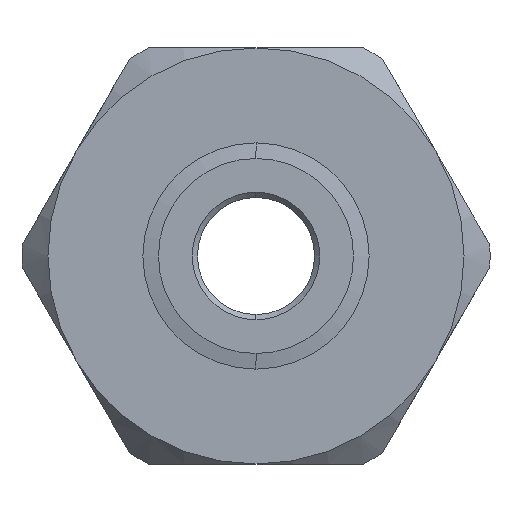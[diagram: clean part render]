
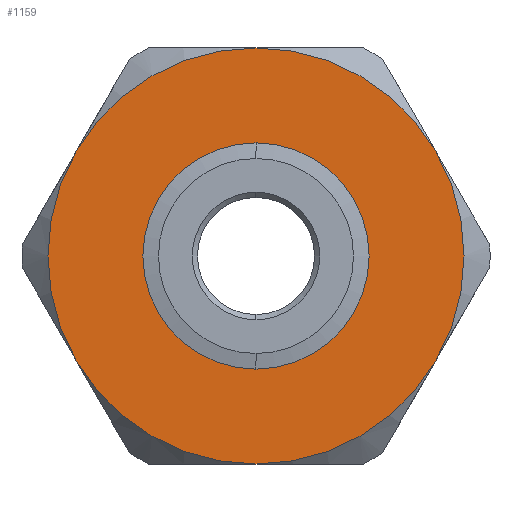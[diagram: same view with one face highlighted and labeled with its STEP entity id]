
A CAD part, front view. The second image highlights one B-rep face of the part: STEP entity #1159.
In plain terms, the highlighted planar face has unit normal (0, -1, 0).
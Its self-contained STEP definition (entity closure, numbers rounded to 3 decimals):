
#1 = VERTEX_POINT ( 'NONE', #1953 ) ;
#57 = FACE_OUTER_BOUND ( 'NONE', #3085, .T. ) ;
#110 = ORIENTED_EDGE ( 'NONE', *, *, #2034, .F. ) ;
#140 = EDGE_CURVE ( 'NONE', #3007, #2722, #890, .T. ) ;
#144 = DIRECTION ( 'NONE',  ( 0., 0., -1. ) ) ;
#173 = CIRCLE ( 'NONE', #492, 8. ) ;
#250 = CARTESIAN_POINT ( 'NONE',  ( 0., -18.3, 0. ) ) ;
#251 = CARTESIAN_POINT ( 'NONE',  ( 0., -18.3, 0. ) ) ;
#352 = CIRCLE ( 'NONE', #624, 8. ) ;
#358 = CARTESIAN_POINT ( 'NONE',  ( 0., -18.3, 0. ) ) ;
#383 = EDGE_CURVE ( 'NONE', #1627, #589, #352, .T. ) ;
#453 = ORIENTED_EDGE ( 'NONE', *, *, #1714, .T. ) ;
#460 = CARTESIAN_POINT ( 'NONE',  ( 0., -18.3, 0. ) ) ;
#475 = VERTEX_POINT ( 'NONE', #2146 ) ;
#477 = DIRECTION ( 'NONE',  ( 0., -1., 0. ) ) ;
#492 = AXIS2_PLACEMENT_3D ( 'NONE', #918, #2889, #144 ) ;
#589 = VERTEX_POINT ( 'NONE', #878 ) ;
#624 = AXIS2_PLACEMENT_3D ( 'NONE', #250, #1555, #2296 ) ;
#687 = CIRCLE ( 'NONE', #1501, 3.75 ) ;
#710 = EDGE_CURVE ( 'NONE', #2722, #1168, #2185, .T. ) ;
#756 = DIRECTION ( 'NONE',  ( 0., -1., 0. ) ) ;
#773 = CARTESIAN_POINT ( 'NONE',  ( 0., -18.3, 0. ) ) ;
#878 = CARTESIAN_POINT ( 'NONE',  ( 6.928, -18.3, 4. ) ) ;
#890 = CIRCLE ( 'NONE', #2754, 8. ) ;
#918 = CARTESIAN_POINT ( 'NONE',  ( 0., -18.3, 0. ) ) ;
#943 = EDGE_CURVE ( 'NONE', #1168, #1627, #2649, .T. ) ;
#951 = AXIS2_PLACEMENT_3D ( 'NONE', #251, #1278, #2058 ) ;
#975 = DIRECTION ( 'NONE',  ( 0., 0., -1. ) ) ;
#982 = EDGE_LOOP ( 'NONE', ( #3150, #110 ) ) ;
#983 = CARTESIAN_POINT ( 'NONE',  ( -6.928, -18.3, -4. ) ) ;
#1075 = CARTESIAN_POINT ( 'NONE',  ( -6.928, -18.3, 4. ) ) ;
#1099 = DIRECTION ( 'NONE',  ( 0., -1., 0. ) ) ;
#1111 = DIRECTION ( 'NONE',  ( 0., -1., 0. ) ) ;
#1159 = ADVANCED_FACE ( 'NONE', ( #2779, #57 ), #2051, .T. ) ;
#1168 = VERTEX_POINT ( 'NONE', #2361 ) ;
#1197 = ORIENTED_EDGE ( 'NONE', *, *, #383, .T. ) ;
#1258 = AXIS2_PLACEMENT_3D ( 'NONE', #2385, #1111, #2996 ) ;
#1278 = DIRECTION ( 'NONE',  ( 0., -1., 0. ) ) ;
#1289 = ORIENTED_EDGE ( 'NONE', *, *, #943, .T. ) ;
#1410 = ORIENTED_EDGE ( 'NONE', *, *, #710, .T. ) ;
#1428 = AXIS2_PLACEMENT_3D ( 'NONE', #460, #477, #975 ) ;
#1501 = AXIS2_PLACEMENT_3D ( 'NONE', #3281, #2338, #2042 ) ;
#1555 = DIRECTION ( 'NONE',  ( 0., -1., 0. ) ) ;
#1627 = VERTEX_POINT ( 'NONE', #2838 ) ;
#1696 = AXIS2_PLACEMENT_3D ( 'NONE', #773, #756, #1785 ) ;
#1714 = EDGE_CURVE ( 'NONE', #589, #1, #173, .T. ) ;
#1784 = EDGE_CURVE ( 'NONE', #1, #3007, #2925, .T. ) ;
#1785 = DIRECTION ( 'NONE',  ( 0., 0., -1. ) ) ;
#1953 = CARTESIAN_POINT ( 'NONE',  ( 0., -18.3, 8. ) ) ;
#2034 = EDGE_CURVE ( 'NONE', #2886, #475, #2813, .T. ) ;
#2042 = DIRECTION ( 'NONE',  ( 0., 0., -1. ) ) ;
#2051 = PLANE ( 'NONE',  #1428 ) ;
#2058 = DIRECTION ( 'NONE',  ( 0., 0., -1. ) ) ;
#2072 = CARTESIAN_POINT ( 'NONE',  ( 0., -18.3, -3.75 ) ) ;
#2146 = CARTESIAN_POINT ( 'NONE',  ( 0., -18.3, 3.75 ) ) ;
#2185 = CIRCLE ( 'NONE', #1696, 8. ) ;
#2286 = DIRECTION ( 'NONE',  ( 0., -1., 0. ) ) ;
#2296 = DIRECTION ( 'NONE',  ( 0., 0., -1. ) ) ;
#2338 = DIRECTION ( 'NONE',  ( 0., -1., 0. ) ) ;
#2361 = CARTESIAN_POINT ( 'NONE',  ( 0., -18.3, -8. ) ) ;
#2385 = CARTESIAN_POINT ( 'NONE',  ( 0., -18.3, 0. ) ) ;
#2531 = CARTESIAN_POINT ( 'NONE',  ( 0., -18.3, 0. ) ) ;
#2649 = CIRCLE ( 'NONE', #1258, 8. ) ;
#2689 = ORIENTED_EDGE ( 'NONE', *, *, #1784, .T. ) ;
#2722 = VERTEX_POINT ( 'NONE', #983 ) ;
#2754 = AXIS2_PLACEMENT_3D ( 'NONE', #2531, #2286, #3291 ) ;
#2779 = FACE_BOUND ( 'NONE', #982, .T. ) ;
#2813 = CIRCLE ( 'NONE', #951, 3.75 ) ;
#2838 = CARTESIAN_POINT ( 'NONE',  ( 6.928, -18.3, -4. ) ) ;
#2853 = EDGE_CURVE ( 'NONE', #475, #2886, #687, .T. ) ;
#2869 = AXIS2_PLACEMENT_3D ( 'NONE', #358, #1099, #3185 ) ;
#2886 = VERTEX_POINT ( 'NONE', #2072 ) ;
#2889 = DIRECTION ( 'NONE',  ( 0., -1., 0. ) ) ;
#2925 = CIRCLE ( 'NONE', #2869, 8. ) ;
#2996 = DIRECTION ( 'NONE',  ( 0., 0., -1. ) ) ;
#3007 = VERTEX_POINT ( 'NONE', #1075 ) ;
#3085 = EDGE_LOOP ( 'NONE', ( #3272, #1410, #1289, #1197, #453, #2689 ) ) ;
#3150 = ORIENTED_EDGE ( 'NONE', *, *, #2853, .F. ) ;
#3185 = DIRECTION ( 'NONE',  ( 0., 0., -1. ) ) ;
#3272 = ORIENTED_EDGE ( 'NONE', *, *, #140, .T. ) ;
#3281 = CARTESIAN_POINT ( 'NONE',  ( 0., -18.3, 0. ) ) ;
#3291 = DIRECTION ( 'NONE',  ( 0., 0., -1. ) ) ;
